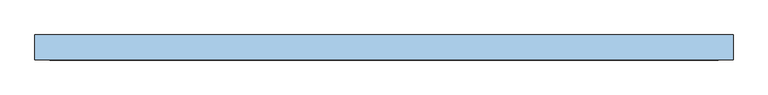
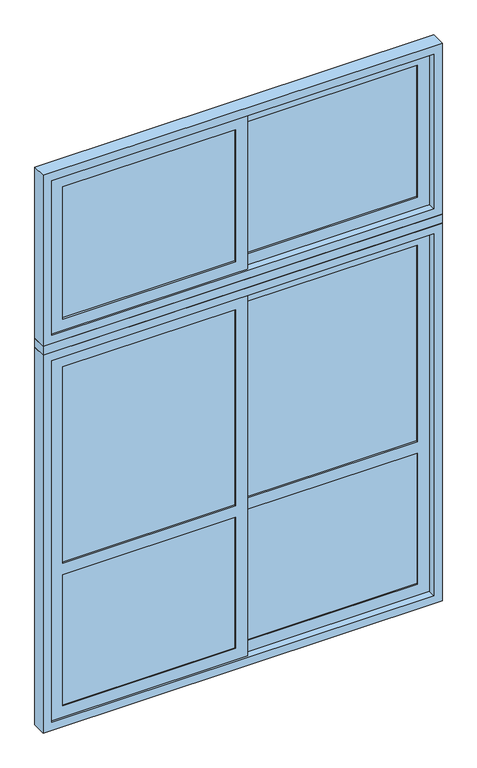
"""IFC4 building model written with IfcOpenShell, lengths in millimetres: window geometry, A7 Ventana_Corrediza_PC_2 hojas : A7.2 Ventana_Corrediza_PC_2 hojas 210x310."""

from ifc_helpers import new_model, si_unit, frame, origin, place, context, project, spatial, polyline, outline, extrude, source, transform, mapped, element, save


def window_8a56f16f(model_context):
    return source(origin(), model_context, "Body", "SweptSolid", [
        extrude(outline(polyline([(-31.5, 28.0), (-942.0, 28.0), (-942.0, 44.0), (-31.5, 44.0), (-31.5, 28.0)])), frame((0.0, 0.0, 108.0), z_axis=(0.0, 0.0, 1.0), x_axis=(1.0, 0.0, 0.0)), (0.0, 0.0, 1.0), 728.0),
        extrude(outline(polyline([(942.0, 56.0), (31.5, 56.0), (31.5, 72.0), (942.0, 72.0), (942.0, 56.0)])), frame((0.0, 0.0, 108.0), z_axis=(0.0, 0.0, 1.0), x_axis=(1.0, 0.0, 0.0)), (0.0, 0.0, 1.0), 728.0),
        extrude(outline(polyline([(-31.5, 31.5769719), (-942.0, 31.5769719), (-942.0, 40.4230281), (-31.5, 40.4230281), (-31.5, 31.5769719)])), frame((0.0, 0.0, 2258.0), z_axis=(0.0, 0.0, 1.0), x_axis=(1.0, 0.0, 0.0)), (0.0, 0.0, 1.0), 734.0),
        extrude(outline(polyline([(-31.5, 31.5769719), (-942.0, 31.5769719), (-942.0, 40.4230281), (-31.5, 40.4230281), (-31.5, 31.5769719)])), frame((0.0, 0.0, 900.0), z_axis=(0.0, 0.0, 1.0), x_axis=(1.0, 0.0, 0.0)), (0.0, 0.0, 1.0), 1092.0),
        extrude(outline(polyline([(942.0, 59.5769719), (31.5, 59.5769719), (31.5, 68.4230281), (942.0, 68.4230281), (942.0, 59.5769719)])), frame((0.0, 0.0, 2258.0), z_axis=(0.0, 0.0, 1.0), x_axis=(1.0, 0.0, 0.0)), (0.0, 0.0, 1.0), 734.0),
        extrude(outline(polyline([(942.0, 59.5769719), (31.5, 59.5769719), (31.5, 68.4230281), (942.0, 68.4230281), (942.0, 59.5769719)])), frame((0.0, 0.0, 900.0), z_axis=(0.0, 0.0, 1.0), x_axis=(1.0, 0.0, 0.0)), (0.0, 0.0, 1.0), 1092.0),
        extrude(outline(polyline([(45.0, -1005.0), (45.0, 31.5), (2055.0, 31.5), (2055.0, -1005.0), (45.0, -1005.0)]), holes=[polyline([(900.0, -942.0), (1992.0, -942.0), (1992.0, -31.5), (900.0, -31.5), (900.0, -942.0)]), polyline([(108.0, -942.0), (836.0, -942.0), (836.0, -31.5), (108.0, -31.5), (108.0, -942.0)])]), frame((0.0, 22.0, 0.0), z_axis=(0.0, 1.0, 0.0), x_axis=(0.0, 0.0, 1.0)), (0.0, 0.0, 1.0), 28.0),
        extrude(outline(polyline([(3055.0, -1005.0), (2195.0, -1005.0), (2195.0, 31.5), (3055.0, 31.5), (3055.0, -1005.0)]), holes=[polyline([(2258.0, -942.0), (2992.0, -942.0), (2992.0, -31.5), (2258.0, -31.5), (2258.0, -942.0)])]), frame((0.0, 22.0, 0.0), z_axis=(0.0, 1.0, 0.0), x_axis=(0.0, 0.0, 1.0)), (0.0, 0.0, 1.0), 28.0),
        extrude(outline(polyline([(2055.0, 1005.0), (2055.0, -31.5), (45.0, -31.5), (45.0, 1005.0), (2055.0, 1005.0)]), holes=[polyline([(1992.0, 31.5), (1992.0, 942.0), (900.0, 942.0), (900.0, 31.5), (1992.0, 31.5)]), polyline([(836.0, 31.5), (836.0, 942.0), (108.0, 942.0), (108.0, 31.5), (836.0, 31.5)])]), frame((0.0, 50.0, 0.0), z_axis=(0.0, 1.0, 0.0), x_axis=(0.0, 0.0, 1.0)), (0.0, 0.0, 1.0), 28.0),
        extrude(outline(polyline([(2195.0, -31.5), (2195.0, 1005.0), (3055.0, 1005.0), (3055.0, -31.5), (2195.0, -31.5)]), holes=[polyline([(2992.0, 31.5), (2992.0, 942.0), (2258.0, 942.0), (2258.0, 31.5), (2992.0, 31.5)])]), frame((0.0, 50.0, 0.0), z_axis=(0.0, 1.0, 0.0), x_axis=(0.0, 0.0, 1.0)), (0.0, 0.0, 1.0), 28.0),
        extrude(outline(polyline([(2100.0, -1050.0), (0.0, -1050.0), (0.0, 1050.0), (2100.0, 1050.0), (2100.0, -1050.0)]), holes=[polyline([(2055.0, -1005.0), (2055.0, 1005.0), (45.0, 1005.0), (45.0, -1005.0), (2055.0, -1005.0)])]), frame((0.0, 12.5, 0.0), z_axis=(0.0, 1.0, 0.0), x_axis=(0.0, 0.0, 1.0)), (0.0, 0.0, 1.0), 75.0),
        extrude(outline(polyline([(3100.0, -1050.0), (2150.0, -1050.0), (2150.0, 1050.0), (3100.0, 1050.0), (3100.0, -1050.0)]), holes=[polyline([(3055.0, -1005.0), (3055.0, 1005.0), (2195.0, 1005.0), (2195.0, -1005.0), (3055.0, -1005.0)])]), frame((0.0, 12.5, 0.0), z_axis=(0.0, 1.0, 0.0), x_axis=(0.0, 0.0, 1.0)), (0.0, 0.0, 1.0), 75.0),
        extrude(outline(polyline([(1050.0, 12.5), (-1050.0, 12.5), (-1050.0, 87.5), (1050.0, 87.5), (1050.0, 12.5)])), frame((0.0, 0.0, 2100.0), z_axis=(0.0, 0.0, 1.0), x_axis=(1.0, 0.0, 0.0)), (0.0, 0.0, 1.0), 50.0),
    ])


if __name__ == "__main__":
    model = new_model("IFC4")
    model_context = context("Model", 3, world=origin())
    ifc_project = project(units=[si_unit("LENGTHUNIT", "METRE", prefix="MILLI")], contexts=[model_context])
    site = spatial("IfcSite", under=ifc_project)
    building = spatial("IfcBuilding", under=site)
    placement = place(None, origin())
    window_shape = window_8a56f16f(model_context)
    element("IfcWindow", 1, ObjectType="A7 Ventana_Corrediza_PC_2 hojas : A7.2 Ventana_Corrediza_PC_2 hojas 210x310", at=placement, inside=building, context=model_context, shape_type="MappedRepresentation", body=[
        mapped(window_shape, transform((0.0, 0.0, 0.0), x_axis=(1.0, 0.0, 0.0), y_axis=(0.0, 1.0, 0.0), z_axis=(0.0, 0.0, 1.0))),
    ])
    save(model, "model.ifc")
